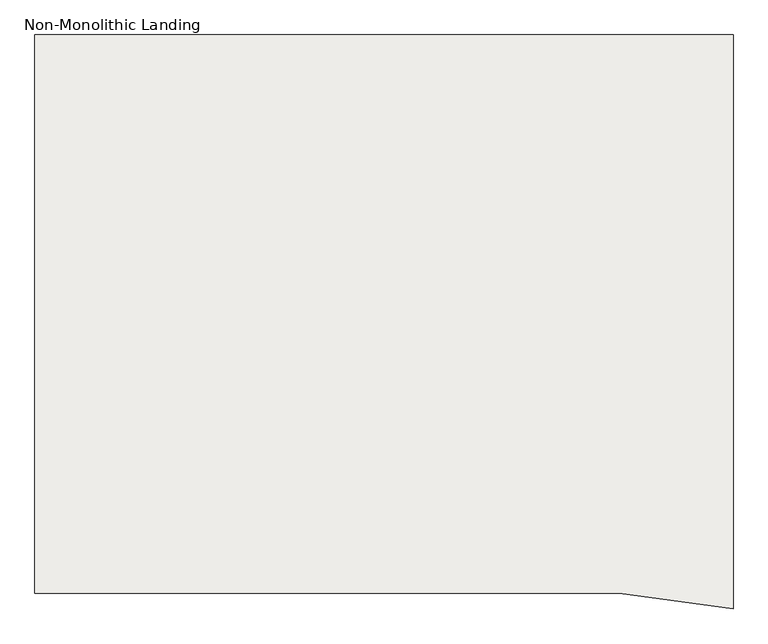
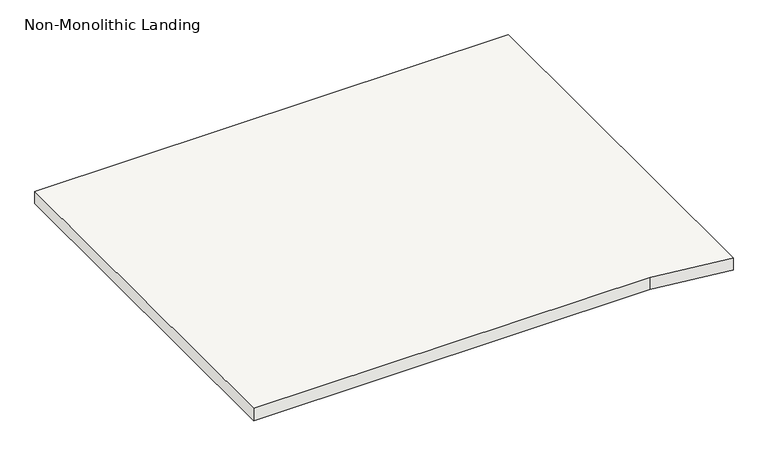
"""IFC4 building model written with IfcOpenShell, lengths in millimetres: slab geometry, Non-Monolithic Landing."""

import ifcopenshell
import ifcopenshell.guid

model = None  # the IFC model being written
_history = None  # IfcOwnerHistory: only IFC2X3 demands one
_inside = {}  # id of a spatial element -> (the spatial element, [elements in it])
_under = {}  # id of a project, library or spatial element -> (it, [spatial elements below it])
_declared = {}  # id of a project -> (the project, [libraries it declares])
_typed = {}  # id of a type object -> (the type object, [elements of that type])
_made_of = {}  # id of a material, layer set ... -> (it, [elements and type objects made of it])


def new_model(schema):
    """Start an empty IFC model of exactly this schema.

    Asked for "IFC4X3", IfcOpenShell would pick the latest addendum, in which some entities
    have other attributes; the version numbers below select the first issue.
    IFC2X3 requires an IfcOwnerHistory on every rooted entity: one is made here for all.
    """
    global model, _history
    if schema == "IFC4X3":
        model = ifcopenshell.file(schema_version=(4, 3, 0, 0))
    else:
        model = ifcopenshell.file(schema=schema)
    _inside.clear()
    _under.clear()
    _declared.clear()
    _typed.clear()
    _made_of.clear()
    _history = None
    if model.schema == "IFC2X3":
        org = make("IfcOrganization", Name="unknown")
        user = make(
            "IfcPersonAndOrganization",
            ThePerson=make("IfcPerson", FamilyName="unknown"),
            TheOrganization=org,
        )
        app = make(
            "IfcApplication",
            ApplicationDeveloper=org,
            Version="unknown",
            ApplicationFullName="unknown",
            ApplicationIdentifier="unknown",
        )
        _history = make(
            "IfcOwnerHistory",
            OwningUser=user,
            OwningApplication=app,
            ChangeAction="ADDED",
            CreationDate=0,
        )
    return model


def make(cls, **values):
    """One entity of the class cls with the attributes given. An attribute that is None is left unset."""
    return model.create_entity(
        cls, **{name: value for name, value in values.items() if value is not None}
    )


def rooted(cls, **values):
    """An entity with a GlobalId (a new one), such as an element, a storey or a relation."""
    return make(cls, GlobalId=ifcopenshell.guid.new(), OwnerHistory=_history, **values)


def si_unit(unit_type, name, prefix=None):
    """IfcSIUnit, for example si_unit("LENGTHUNIT", "METRE", prefix="MILLI")."""
    return make("IfcSIUnit", UnitType=unit_type, Prefix=prefix, Name=name)


def assignment(units):
    """IfcUnitAssignment: the units of a project."""
    return None if units is None else make("IfcUnitAssignment", Units=units)


def point(xyz):
    """IfcCartesianPoint."""
    return None if xyz is None else make("IfcCartesianPoint", Coordinates=xyz)


def direction(xyz):
    """IfcDirection."""
    return None if xyz is None else make("IfcDirection", DirectionRatios=xyz)


def frame(location, z_axis=None, x_axis=None):
    """IfcAxis2Placement3D, a coordinate frame: its origin and axes. An axis left out is left unset."""
    return make(
        "IfcAxis2Placement3D",
        Location=point(location),
        Axis=direction(z_axis),
        RefDirection=direction(x_axis),
    )


def origin():
    """The frame at (0, 0, 0) with its axes left unset."""
    return frame((0.0, 0.0, 0.0))


def place(relative_to, where):
    """IfcLocalPlacement: puts the frame where relative to a parent placement (None: the world)."""
    return make(
        "IfcLocalPlacement", PlacementRelTo=relative_to, RelativePlacement=where
    )


def context(
    kind, dimensions, precision=None, world=None, true_north=None, identifier=None
):
    """IfcGeometricRepresentationContext, for example the 3D "Model" context."""
    return make(
        "IfcGeometricRepresentationContext",
        ContextIdentifier=identifier,
        ContextType=kind,
        CoordinateSpaceDimension=dimensions,
        Precision=precision,
        WorldCoordinateSystem=world,
        TrueNorth=true_north,
    )


def project(units=None, contexts=None):
    """IfcProject with its units and contexts."""
    return rooted(
        "IfcProject",
        Name="project",
        RepresentationContexts=contexts,
        UnitsInContext=assignment(units),
    )


def spatial(cls, under=None, at=None, **own):
    """A site, building, storey or space (cls), placed at a placement, below another one or the project."""
    s = rooted(cls, ObjectPlacement=at, **own)
    if under is not None:
        _under.setdefault(under.id(), (under, []))[1].append(s)
    return s


def polyline(points):
    """IfcPolyline through the points."""
    return make("IfcPolyline", Points=[point(p) for p in points])


def outline(outer, holes=None, kind="AREA"):
    """IfcArbitraryClosedProfileDef: a profile drawn as a closed curve; with holes, ...WithVoids."""
    if holes is None:
        return make("IfcArbitraryClosedProfileDef", ProfileType=kind, OuterCurve=outer)
    return make(
        "IfcArbitraryProfileDefWithVoids",
        ProfileType=kind,
        OuterCurve=outer,
        InnerCurves=holes,
    )


def extrude(swept, where, along, depth):
    """IfcExtrudedAreaSolid: the profile swept, set in the frame where, extruded along a direction by depth."""
    return make(
        "IfcExtrudedAreaSolid",
        SweptArea=swept,
        Position=where,
        ExtrudedDirection=direction(along),
        Depth=depth,
    )


def shape(context_of_items, identifier, shape_type, items):
    """IfcShapeRepresentation: the items that make up one representation, for example the "Body"."""
    return make(
        "IfcShapeRepresentation",
        ContextOfItems=context_of_items,
        RepresentationIdentifier=identifier,
        RepresentationType=shape_type,
        Items=items,
    )


def source(mapping_origin, context_of_items, identifier, shape_type, items):
    """IfcRepresentationMap: a shape defined once, which mapped items show again and again."""
    return make(
        "IfcRepresentationMap",
        MappingOrigin=mapping_origin,
        MappedRepresentation=shape(context_of_items, identifier, shape_type, items),
    )


def transform(
    local_origin,
    x_axis=None,
    y_axis=None,
    z_axis=None,
    scale=None,
    scale2=None,
    scale3=None,
    uniform=True,
):
    """IfcCartesianTransformationOperator3D, or its non-uniform kind. x_axis, y_axis, z_axis: its Axis1, 2, 3."""
    if uniform:
        return make(
            "IfcCartesianTransformationOperator3D",
            Axis1=direction(x_axis),
            Axis2=direction(y_axis),
            LocalOrigin=point(local_origin),
            Scale=scale,
            Axis3=direction(z_axis),
        )
    return make(
        "IfcCartesianTransformationOperator3DnonUniform",
        Axis1=direction(x_axis),
        Axis2=direction(y_axis),
        LocalOrigin=point(local_origin),
        Scale=scale,
        Axis3=direction(z_axis),
        Scale2=scale2,
        Scale3=scale3,
    )


def mapped(mapping_source, mapping_target):
    """IfcMappedItem: shows the shape of a source again, moved by a transform."""
    return make(
        "IfcMappedItem", MappingSource=mapping_source, MappingTarget=mapping_target
    )


def made_of(thing, what):
    """Note that an element or type object is made of a material, layer set ...; save() writes the relation."""
    if what is not None:
        _made_of.setdefault(what.id(), (what, []))[1].append(thing)
    return thing


def element(
    cls,
    number,
    at=None,
    inside=None,
    cuts=None,
    type_object=None,
    material=None,
    context=None,
    identifier="Body",
    shape_type=None,
    held_by="IfcProductDefinitionShape",
    body=None,
    shapes=None,
    **own,
):
    """One element of the class cls, such as IfcWall. Its Tag is "e" and its number.

    at: its placement. inside: the storey or other place that contains it. cuts: it is an
    opening in that element (IfcRelVoidsElement). A single representation is given by context,
    identifier, shape_type and body (its items); several are given by shapes. held_by: the class
    of the entity that holds the representations. save() writes the other relations.
    """
    e = rooted(cls, Tag="e%d" % number, ObjectPlacement=at, **own)
    if body is not None:
        shapes = [shape(context, identifier, shape_type, body)]
    if shapes is not None:
        e.Representation = make(held_by, Representations=shapes)
    if inside is not None:
        _inside.setdefault(inside.id(), (inside, []))[1].append(e)
    if cuts is not None:
        rooted(
            "IfcRelVoidsElement", RelatingBuildingElement=cuts, RelatedOpeningElement=e
        )
    if type_object is not None:
        _typed.setdefault(type_object.id(), (type_object, []))[1].append(e)
    return made_of(e, material)


def aggregate(whole, parts):
    """IfcRelAggregates: a whole, such as a stair, and the parts it consists of."""
    return rooted("IfcRelAggregates", RelatingObject=whole, RelatedObjects=parts)


def save(model, path):
    """Write the relations noted so far, then the file.

    IfcRelAggregates (storeys below a building ...), IfcRelContainedInSpatialStructure (elements
    in a storey), IfcRelDefinesByType, IfcRelAssociatesMaterial and IfcRelDeclares: one each for
    every whole, place, type object, material and project.
    """
    for whole, parts in _under.values():
        aggregate(whole, parts)
    for where, things in _inside.values():
        rooted(
            "IfcRelContainedInSpatialStructure",
            RelatedElements=things,
            RelatingStructure=where,
        )
    for kind, things in _typed.values():
        rooted("IfcRelDefinesByType", RelatedObjects=things, RelatingType=kind)
    for what, things in _made_of.values():
        rooted("IfcRelAssociatesMaterial", RelatedObjects=things, RelatingMaterial=what)
    for by, libraries in _declared.values():
        rooted("IfcRelDeclares", RelatingContext=by, RelatedDefinitions=libraries)
    model.write(path)


def non_monolithic_landing_83515922(model_context):
    return source(origin(), model_context, "Body", "SweptSolid", [
        extrude(outline(polyline([(-79.9999959, 4851.9438392), (-79.9999959, 6311.9438364), (1745.0000043, 6311.9438364), (1745.0000043, 4811.9438414), (1447.7916679, 4851.9438392), (-79.9999959, 4851.9438392)])), frame((0.0, 0.0, 2897.0588235), z_axis=(0.0, 0.0, 1.0), x_axis=(1.0, 0.0, 0.0)), (0.0, 0.0, 1.0), 50.0),
    ])


if __name__ == "__main__":
    model = new_model("IFC4")
    model_context = context("Model", 3, world=origin())
    ifc_project = project(units=[si_unit("LENGTHUNIT", "METRE", prefix="MILLI")], contexts=[model_context])
    site = spatial("IfcSite", under=ifc_project)
    building = spatial("IfcBuilding", under=site)
    placement = place(None, origin())
    non_monolithic_landing_shape = non_monolithic_landing_83515922(model_context)
    element("IfcSlab", 1, ObjectType="Non-Monolithic Landing", at=placement, inside=building, context=model_context, shape_type="MappedRepresentation", body=[
        mapped(non_monolithic_landing_shape, transform((0.0, 0.0, 0.0), x_axis=(1.0, 0.0, 0.0), y_axis=(0.0, 1.0, 0.0), z_axis=(0.0, 0.0, 1.0))),
    ])
    save(model, "model.ifc")
